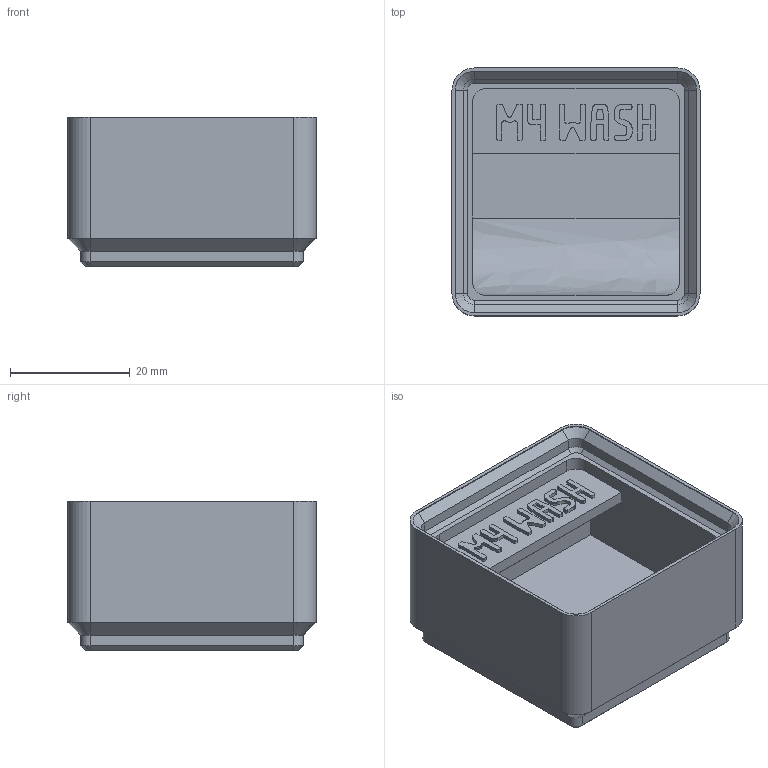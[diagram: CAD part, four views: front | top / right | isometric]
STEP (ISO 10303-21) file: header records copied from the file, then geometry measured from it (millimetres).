
FILE_DESCRIPTION(('Open CASCADE Model'),'2;1');
FILE_NAME('m4-washer','2026-11-17T16:08:19',('Author'),('Open CASCADE'), 'Open CASCADE STEP processor 8.0','build123d','Unknown');
FILE_SCHEMA(('AUTOMOTIVE_DESIGN { 1 0 10303 214 1 1 1 1 }'));
Length unit declared in the file: millimetre
Products named in the file (1): m4-washer
Bounding box: 41.5 x 41.5 x 25 mm (x, y, z)
Volume: 22478.4 mm3; surface area: 9540.3 mm2
Topology: 1 solids, 1 shells, 723 faces, 2088 edges, 1376 vertices
Faces by surface type: plane 686, cylinder 20, cone 16, extrusion 1
Entity records: 49220 total; most frequent: CARTESIAN_POINT 9993, DIRECTION 6367, VECTOR 4811, LINE 4810, ORIENTED_EDGE 4176, PCURVE 4176, DEFINITIONAL_REPRESENTATION 4176, EDGE_CURVE 2088
